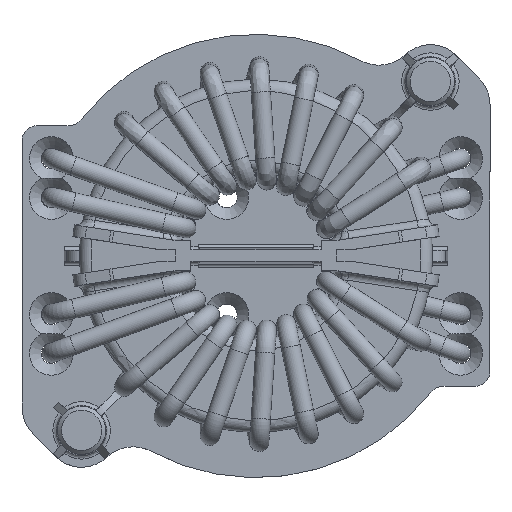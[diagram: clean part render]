
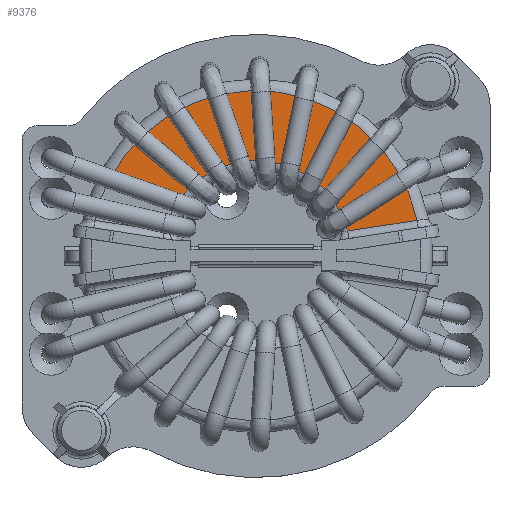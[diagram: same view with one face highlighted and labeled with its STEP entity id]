
A CAD part, top view. The second image highlights one B-rep face of the part: STEP entity #9376.
In plain terms, the highlighted planar face has unit normal (0, 0, 1).
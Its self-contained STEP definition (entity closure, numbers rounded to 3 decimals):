
#7503=CARTESIAN_POINT('',(-11.073,8.197,20.4));
#7504=VERTEX_POINT('',#7503);
#7522=CARTESIAN_POINT('',(-11.6,8.003,20.4));
#7523=VERTEX_POINT('',#7522);
#7524=CARTESIAN_POINT('',(-11.6,8.003,20.4));
#7525=CARTESIAN_POINT('',(-11.433,8.066,20.4));
#7526=CARTESIAN_POINT('',(-11.256,8.133,20.4));
#7527=CARTESIAN_POINT('',(-11.073,8.197,20.4));
#7528=B_SPLINE_CURVE_WITH_KNOTS('',3,(#7524,#7525,#7526,#7527),.UNSPECIFIED.,.F.,.U.,(4,4),(0.0,0.053),.UNSPECIFIED.);
#7529=EDGE_CURVE('',#7523,#7504,#7528,.T.);
#7636=CARTESIAN_POINT('',(10.958,4.207,20.4));
#7637=VERTEX_POINT('',#7636);
#7645=CARTESIAN_POINT('',(-1.,1.0,20.4));
#7646=DIRECTION('',(0.0,0.0,1.0));
#7647=DIRECTION('',(0.0,1.0,0.0));
#7648=AXIS2_PLACEMENT_3D('',#7645,#7646,#7647);
#7649=CIRCLE('',#7648,12.38);
#7650=EDGE_CURVE('',#7637,#7504,#7649,.T.);
#8784=CARTESIAN_POINT('',(-20.036,10.994,20.4));
#8785=VERTEX_POINT('',#8784);
#8786=CARTESIAN_POINT('',(-20.036,10.994,20.4));
#8787=DIRECTION('',(0.943,-0.334,0.0));
#8788=VECTOR('',#8787,8.951);
#8789=LINE('',#8786,#8788);
#8790=EDGE_CURVE('',#8785,#7523,#8789,.T.);
#9351=CARTESIAN_POINT('',(-1.,1.0,20.4));
#9352=DIRECTION('',(0.0,0.0,1.0));
#9353=DIRECTION('',(0.0,-1.0,0.0));
#9354=AXIS2_PLACEMENT_3D('',#9351,#9352,#9353);
#9355=PLANE('',#9354);
#9356=ORIENTED_EDGE('',*,*,#8790,.T.);
#9357=ORIENTED_EDGE('',*,*,#7529,.T.);
#9358=ORIENTED_EDGE('',*,*,#7650,.F.);
#9359=CARTESIAN_POINT('',(20.002,5.601,20.4));
#9360=VERTEX_POINT('',#9359);
#9361=CARTESIAN_POINT('',(20.002,5.601,20.4));
#9362=DIRECTION('',(-0.988,-0.152,0.));
#9363=VECTOR('',#9362,9.151);
#9364=LINE('',#9361,#9363);
#9365=EDGE_CURVE('',#9360,#7637,#9364,.T.);
#9366=ORIENTED_EDGE('',*,*,#9365,.F.);
#9367=CARTESIAN_POINT('',(-1.,1.0,20.4));
#9368=DIRECTION('',(0.0,0.0,-1.0));
#9369=DIRECTION('',(0.0,1.0,0.0));
#9370=AXIS2_PLACEMENT_3D('',#9367,#9368,#9369);
#9371=CIRCLE('',#9370,21.5);
#9372=EDGE_CURVE('',#8785,#9360,#9371,.T.);
#9373=ORIENTED_EDGE('',*,*,#9372,.F.);
#9374=EDGE_LOOP('',(#9356,#9357,#9358,#9366,#9373));
#9375=FACE_OUTER_BOUND('',#9374,.T.);
#9376=ADVANCED_FACE('',(#9375),#9355,.T.);
